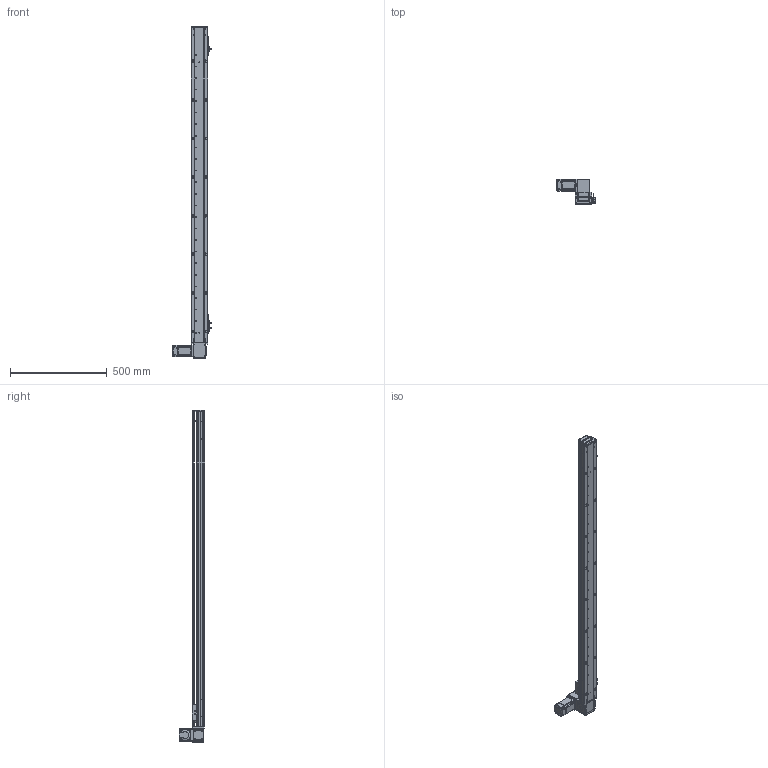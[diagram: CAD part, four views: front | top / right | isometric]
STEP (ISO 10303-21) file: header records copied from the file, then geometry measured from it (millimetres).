
FILE_DESCRIPTION (( 'STEP AP203' ), '1' );
FILE_NAME ('RY80-T-300-UL.SLDASM_1450.step', '2021-03-01T02:17:54', ( '盈信电脑' ), ( '东莞市道滘镇水果街19号' ), 'SwSTEP 2.0', 'SolidWorks 2012', '' );
FILE_SCHEMA (( 'CONFIG_CONTROL_DESIGN' ));
Length unit declared in the file: millimetre
Products named in the file (19): RY80-T-300-UL.SLDASM_1450; RY80-T-上下折同步轮盖板; RY80-T-M4蹟翐2; RY80-T翋肮祭謫裔啣; 滅袉蝶18-10; 1; RY80-T肮祭謫奻殏俋欶; RY80-T肮祭湍揤輸1; RY80-T萇儂假蚾啣; RY80-T肮祭湍揤輸2; RY80-T粣創揤踡輸; RY80-T-翋肮祭謫釱; RY80俋离覜茼え; 覜茼ん672; 672嫖萇羲壽假蚾釱; RY80-T綴裔啣; RY80-T-300-UL倰第菁釱_1450; RY80-T肮祭謫臏賑輸; RY80-T-300-UL倰第奻裔啣_1450
Assembly tree (24 placements, depth 2):
  RY80-T-300-UL.SLDASM_1450
    RY80-T-300-UL倰第菁釱_1450
    RY80-T肮祭謫臏賑輸
    RY80-T-300-UL倰第奻裔啣_1450
    RY80-T綴裔啣
    672嫖萇羲壽假蚾釱  x2
    覜茼ん672  x3
    RY80俋离覜茼え
    RY80-T-翋肮祭謫釱
    RY80-T肮祭湍揤輸1
    RY80-T肮祭湍揤輸2
    RY80-T萇儂假蚾啣
    RY80-T粣創揤踡輸  x2
    滅袉蝶18-10  x2
    RY80-T翋肮祭謫裔啣
    1
    RY80-T肮祭謫奻殏俋欶
    RY80-T-M4蹟翐2  x2
    RY80-T-上下折同步轮盖板
Bounding box: 198.7 x 130.5 x 1720 mm (x, y, z)
Volume: 2778073.2 mm3; surface area: 1178025.2 mm2
Topology: 24 solids, 24 shells, 2559 faces, 7054 edges, 4581 vertices
Faces by surface type: plane 1354, cylinder 999, cone 150, bspline 56
Entity records: 80413 total; most frequent: CARTESIAN_POINT 19684, ORIENTED_EDGE 12492, DIRECTION 11726, EDGE_CURVE 6246, VERTEX_POINT 4102, AXIS2_PLACEMENT_3D 3960, VECTOR 3806, LINE 3806
